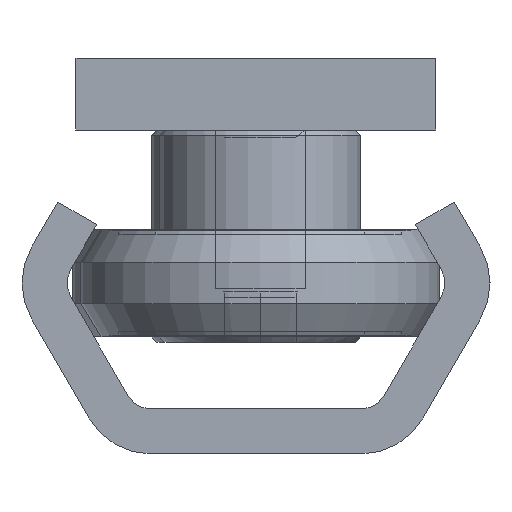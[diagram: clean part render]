
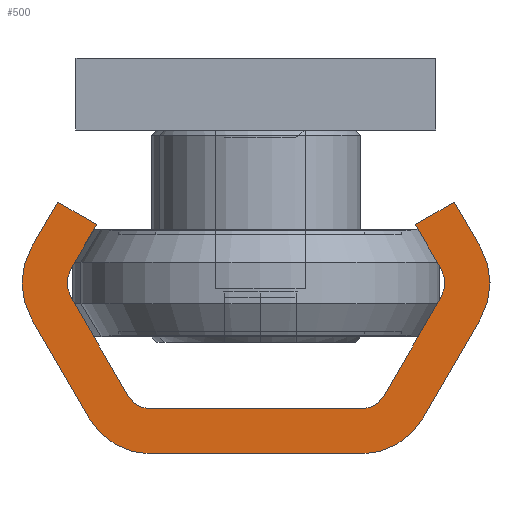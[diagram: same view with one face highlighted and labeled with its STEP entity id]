
A CAD part, left-side view. The second image highlights one B-rep face of the part: STEP entity #500.
In plain terms, the highlighted planar face has unit normal (-1, 0, 0).
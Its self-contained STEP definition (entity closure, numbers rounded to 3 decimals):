
#500 = ADVANCED_FACE( '', ( #1159 ), #1160, .F. );
#1159 = FACE_OUTER_BOUND( '', #2027, .T. );
#1160 = PLANE( '', #2028 );
#2027 = EDGE_LOOP( '', ( #3257, #3258, #3259, #3260, #3261, #3262, #3263, #3264, #3265, #3266, #3267, #3268, #3269, #3270, #3271, #3272, #3273, #3274, #3275, #3276 ) );
#2028 = AXIS2_PLACEMENT_3D( '', #3277, #3278, #3279 );
#3257 = ORIENTED_EDGE( '', *, *, #4200, .F. );
#3258 = ORIENTED_EDGE( '', *, *, #4388, .F. );
#3259 = ORIENTED_EDGE( '', *, *, #4220, .F. );
#3260 = ORIENTED_EDGE( '', *, *, #4389, .F. );
#3261 = ORIENTED_EDGE( '', *, *, #4067, .F. );
#3262 = ORIENTED_EDGE( '', *, *, #4390, .F. );
#3263 = ORIENTED_EDGE( '', *, *, #4391, .F. );
#3264 = ORIENTED_EDGE( '', *, *, #4392, .T. );
#3265 = ORIENTED_EDGE( '', *, *, #4393, .F. );
#3266 = ORIENTED_EDGE( '', *, *, #4316, .T. );
#3267 = ORIENTED_EDGE( '', *, *, #4139, .F. );
#3268 = ORIENTED_EDGE( '', *, *, #4394, .T. );
#3269 = ORIENTED_EDGE( '', *, *, #4395, .F. );
#3270 = ORIENTED_EDGE( '', *, *, #4396, .T. );
#3271 = ORIENTED_EDGE( '', *, *, #4352, .F. );
#3272 = ORIENTED_EDGE( '', *, *, #4304, .F. );
#3273 = ORIENTED_EDGE( '', *, *, #4312, .F. );
#3274 = ORIENTED_EDGE( '', *, *, #4397, .F. );
#3275 = ORIENTED_EDGE( '', *, *, #4235, .F. );
#3276 = ORIENTED_EDGE( '', *, *, #4398, .F. );
#3277 = CARTESIAN_POINT( '', ( 0., -5.825, -4. ) );
#3278 = DIRECTION( '', ( 1., 0., 0. ) );
#3279 = DIRECTION( '', ( 0., 0., -1. ) );
#4067 = EDGE_CURVE( '', #4634, #4635, #4636, .T. );
#4139 = EDGE_CURVE( '', #4770, #4771, #4772, .T. );
#4200 = EDGE_CURVE( '', #4884, #4885, #4886, .T. );
#4220 = EDGE_CURVE( '', #4916, #4917, #4918, .T. );
#4235 = EDGE_CURVE( '', #4941, #4942, #4943, .T. );
#4304 = EDGE_CURVE( '', #5052, #5053, #5054, .T. );
#4312 = EDGE_CURVE( '', #5066, #5052, #5067, .T. );
#4316 = EDGE_CURVE( '', #5072, #4771, #5073, .T. );
#4352 = EDGE_CURVE( '', #5053, #5123, #5124, .T. );
#4388 = EDGE_CURVE( '', #4917, #4884, #5169, .T. );
#4389 = EDGE_CURVE( '', #4635, #4916, #5170, .T. );
#4390 = EDGE_CURVE( '', #5171, #4634, #5172, .T. );
#4391 = EDGE_CURVE( '', #5173, #5171, #5174, .T. );
#4392 = EDGE_CURVE( '', #5173, #5175, #5176, .T. );
#4393 = EDGE_CURVE( '', #5072, #5175, #5177, .T. );
#4394 = EDGE_CURVE( '', #4770, #5178, #5179, .T. );
#4395 = EDGE_CURVE( '', #5180, #5178, #5181, .T. );
#4396 = EDGE_CURVE( '', #5180, #5123, #5182, .T. );
#4397 = EDGE_CURVE( '', #4942, #5066, #5183, .T. );
#4398 = EDGE_CURVE( '', #4885, #4941, #5184, .T. );
#4634 = VERTEX_POINT( '', #5466 );
#4635 = VERTEX_POINT( '', #5467 );
#4636 = LINE( '', #5468, #5469 );
#4770 = VERTEX_POINT( '', #5606 );
#4771 = VERTEX_POINT( '', #5607 );
#4772 = LINE( '', #5608, #5609 );
#4884 = VERTEX_POINT( '', #5737 );
#4885 = VERTEX_POINT( '', #5738 );
#4886 = LINE( '', #5739, #5740 );
#4916 = VERTEX_POINT( '', #5776 );
#4917 = VERTEX_POINT( '', #5777 );
#4918 = LINE( '', #5778, #5779 );
#4941 = VERTEX_POINT( '', #5811 );
#4942 = VERTEX_POINT( '', #5812 );
#4943 = LINE( '', #5813, #5814 );
#5052 = VERTEX_POINT( '', #5945 );
#5053 = VERTEX_POINT( '', #5946 );
#5054 = LINE( '', #5947, #5948 );
#5066 = VERTEX_POINT( '', #5963 );
#5067 = LINE( '', #5964, #5965 );
#5072 = VERTEX_POINT( '', #5972 );
#5073 = CIRCLE( '', #5973, 1.5 );
#5123 = VERTEX_POINT( '', #6034 );
#5124 = LINE( '', #6035, #6036 );
#5169 = CIRCLE( '', #6089, 4. );
#5170 = CIRCLE( '', #6090, 4. );
#5171 = VERTEX_POINT( '', #6091 );
#5172 = LINE( '', #6092, #6093 );
#5173 = VERTEX_POINT( '', #6094 );
#5174 = LINE( '', #6095, #6096 );
#5175 = VERTEX_POINT( '', #6097 );
#5176 = CIRCLE( '', #6098, 1.5 );
#5177 = LINE( '', #6099, #6100 );
#5178 = VERTEX_POINT( '', #6101 );
#5179 = CIRCLE( '', #6102, 1.5 );
#5180 = VERTEX_POINT( '', #6103 );
#5181 = LINE( '', #6104, #6105 );
#5182 = CIRCLE( '', #6106, 1.5 );
#5183 = CIRCLE( '', #6107, 4. );
#5184 = CIRCLE( '', #6108, 4. );
#5466 = CARTESIAN_POINT( '', ( 0., 11.021, -14. ) );
#5467 = CARTESIAN_POINT( '', ( 0., 12.464, -11.5 ) );
#5468 = CARTESIAN_POINT( '', ( 0., 11.021, -14. ) );
#5469 = VECTOR( '', #6398, 1000. );
#5606 = CARTESIAN_POINT( '', ( 0., -5.825, -2.5 ) );
#5607 = CARTESIAN_POINT( '', ( 0., 5.825, -2.5 ) );
#5608 = CARTESIAN_POINT( '', ( 0., -5.825, -2.5 ) );
#5609 = VECTOR( '', #6582, 1000. );
#5737 = CARTESIAN_POINT( '', ( 0., 5.825, 0. ) );
#5738 = CARTESIAN_POINT( '', ( 0., -5.825, 0. ) );
#5739 = CARTESIAN_POINT( '', ( 0., 5.825, 0. ) );
#5740 = VECTOR( '', #6713, 1000. );
#5776 = CARTESIAN_POINT( '', ( 0., 12.464, -7.5 ) );
#5777 = CARTESIAN_POINT( '', ( 0., 9.289, -2. ) );
#5778 = CARTESIAN_POINT( '', ( 0., 12.464, -7.5 ) );
#5779 = VECTOR( '', #6741, 1000. );
#5811 = CARTESIAN_POINT( '', ( 0., -9.289, -2. ) );
#5812 = CARTESIAN_POINT( '', ( 0., -12.464, -7.5 ) );
#5813 = CARTESIAN_POINT( '', ( 0., -9.289, -2. ) );
#5814 = VECTOR( '', #6751, 1000. );
#5945 = CARTESIAN_POINT( '', ( 0., -11.021, -14. ) );
#5946 = CARTESIAN_POINT( '', ( 0., -8.856, -12.75 ) );
#5947 = CARTESIAN_POINT( '', ( 0., -11.021, -14. ) );
#5948 = VECTOR( '', #6849, 1000. );
#5963 = CARTESIAN_POINT( '', ( 0., -12.464, -11.5 ) );
#5964 = CARTESIAN_POINT( '', ( 0., -12.464, -11.5 ) );
#5965 = VECTOR( '', #6859, 1000. );
#5972 = CARTESIAN_POINT( '', ( 0., 7.124, -3.25 ) );
#5973 = AXIS2_PLACEMENT_3D( '', #6862, #6863, #6864 );
#6034 = CARTESIAN_POINT( '', ( 0., -10.299, -10.25 ) );
#6035 = CARTESIAN_POINT( '', ( 0., -8.856, -12.75 ) );
#6036 = VECTOR( '', #6912, 1000. );
#6089 = AXIS2_PLACEMENT_3D( '', #6975, #6976, #6977 );
#6090 = AXIS2_PLACEMENT_3D( '', #6978, #6979, #6980 );
#6091 = CARTESIAN_POINT( '', ( 0., 8.856, -12.75 ) );
#6092 = CARTESIAN_POINT( '', ( 0., 8.856, -12.75 ) );
#6093 = VECTOR( '', #6981, 1000. );
#6094 = CARTESIAN_POINT( '', ( 0., 10.299, -10.25 ) );
#6095 = CARTESIAN_POINT( '', ( 0., 10.299, -10.25 ) );
#6096 = VECTOR( '', #6982, 1000. );
#6097 = CARTESIAN_POINT( '', ( 0., 10.299, -8.75 ) );
#6098 = AXIS2_PLACEMENT_3D( '', #6983, #6984, #6985 );
#6099 = CARTESIAN_POINT( '', ( 0., 7.124, -3.25 ) );
#6100 = VECTOR( '', #6986, 1000. );
#6101 = CARTESIAN_POINT( '', ( 0., -7.124, -3.25 ) );
#6102 = AXIS2_PLACEMENT_3D( '', #6987, #6988, #6989 );
#6103 = CARTESIAN_POINT( '', ( 0., -10.299, -8.75 ) );
#6104 = CARTESIAN_POINT( '', ( 0., -10.299, -8.75 ) );
#6105 = VECTOR( '', #6990, 1000. );
#6106 = AXIS2_PLACEMENT_3D( '', #6991, #6992, #6993 );
#6107 = AXIS2_PLACEMENT_3D( '', #6994, #6995, #6996 );
#6108 = AXIS2_PLACEMENT_3D( '', #6997, #6998, #6999 );
#6398 = DIRECTION( '', ( 0., 0.5, 0.866 ) );
#6582 = DIRECTION( '', ( 0., 1., 0. ) );
#6713 = DIRECTION( '', ( 0., -1., 0. ) );
#6741 = DIRECTION( '', ( 0., -0.5, 0.866 ) );
#6751 = DIRECTION( '', ( 0., -0.5, -0.866 ) );
#6849 = DIRECTION( '', ( 0., 0.866, 0.5 ) );
#6859 = DIRECTION( '', ( 0., 0.5, -0.866 ) );
#6862 = CARTESIAN_POINT( '', ( 0., 5.825, -4. ) );
#6863 = DIRECTION( '', ( 1., 0., 0. ) );
#6864 = DIRECTION( '', ( 0., 0., -1. ) );
#6912 = DIRECTION( '', ( 0., -0.5, 0.866 ) );
#6975 = CARTESIAN_POINT( '', ( 0., 5.825, -4. ) );
#6976 = DIRECTION( '', ( 1., 0., 0. ) );
#6977 = DIRECTION( '', ( 0., 0., -1. ) );
#6978 = CARTESIAN_POINT( '', ( 0., 9., -9.5 ) );
#6979 = DIRECTION( '', ( 1., 0., 0. ) );
#6980 = DIRECTION( '', ( 0., 0., -1. ) );
#6981 = DIRECTION( '', ( 0., 0.866, -0.5 ) );
#6982 = DIRECTION( '', ( 0., -0.5, -0.866 ) );
#6983 = CARTESIAN_POINT( '', ( 0., 9., -9.5 ) );
#6984 = DIRECTION( '', ( 1., 0., 0. ) );
#6985 = DIRECTION( '', ( 0., 0., -1. ) );
#6986 = DIRECTION( '', ( 0., 0.5, -0.866 ) );
#6987 = CARTESIAN_POINT( '', ( 0., -5.825, -4. ) );
#6988 = DIRECTION( '', ( 1., 0., 0. ) );
#6989 = DIRECTION( '', ( 0., 0., -1. ) );
#6990 = DIRECTION( '', ( 0., 0.5, 0.866 ) );
#6991 = CARTESIAN_POINT( '', ( 0., -9., -9.5 ) );
#6992 = DIRECTION( '', ( 1., 0., 0. ) );
#6993 = DIRECTION( '', ( 0., 0., -1. ) );
#6994 = CARTESIAN_POINT( '', ( 0., -9., -9.5 ) );
#6995 = DIRECTION( '', ( 1., 0., 0. ) );
#6996 = DIRECTION( '', ( 0., 0., -1. ) );
#6997 = CARTESIAN_POINT( '', ( 0., -5.825, -4. ) );
#6998 = DIRECTION( '', ( 1., 0., 0. ) );
#6999 = DIRECTION( '', ( 0., 0., -1. ) );
